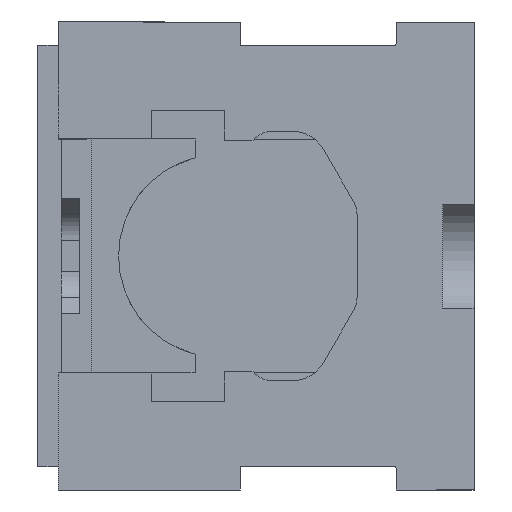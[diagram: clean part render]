
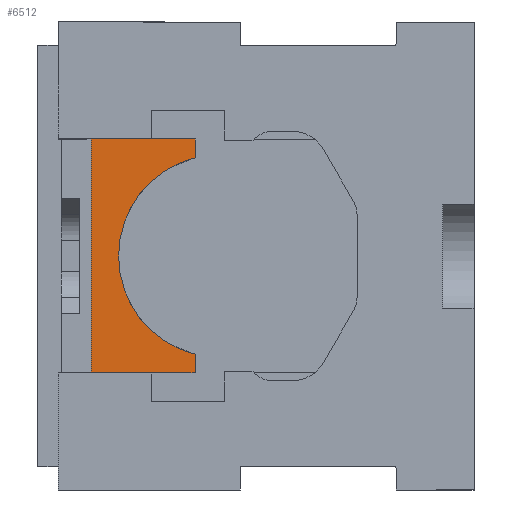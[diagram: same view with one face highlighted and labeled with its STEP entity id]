
A CAD part, left-side view. The second image highlights one B-rep face of the part: STEP entity #6512.
In plain terms, the highlighted planar face has unit normal (-1, 0, 0).
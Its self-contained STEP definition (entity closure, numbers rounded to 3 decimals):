
#22 = CARTESIAN_POINT ( 'NONE',  ( 5., 77.65, 22.5 ) ) ;
#44 = PLANE ( 'NONE',  #6422 ) ;
#127 = EDGE_CURVE ( 'NONE', #1834, #4645, #376, .T. ) ;
#376 = LINE ( 'NONE', #22, #2057 ) ;
#579 = CARTESIAN_POINT ( 'NONE',  ( 5., 77.65, -22.5 ) ) ;
#631 = DIRECTION ( 'NONE',  ( 0., -1., 0. ) ) ;
#659 = EDGE_CURVE ( 'NONE', #6774, #9856, #5707, .T. ) ;
#692 = EDGE_LOOP ( 'NONE', ( #5304, #1239, #12083, #11486, #6583, #2747, #6591, #9285 ) ) ;
#756 = EDGE_CURVE ( 'NONE', #4645, #3781, #2326, .T. ) ;
#837 = VERTEX_POINT ( 'NONE', #979 ) ;
#979 = CARTESIAN_POINT ( 'NONE',  ( 5., 57.65, -22.5 ) ) ;
#1175 = CARTESIAN_POINT ( 'NONE',  ( 5., 57.65, 22.5 ) ) ;
#1239 = ORIENTED_EDGE ( 'NONE', *, *, #7314, .T. ) ;
#1579 = VECTOR ( 'NONE', #2881, 1000. ) ;
#1740 = CARTESIAN_POINT ( 'NONE',  ( 5., 77.65, 22.5 ) ) ;
#1751 = DIRECTION ( 'NONE',  ( 1., 0., 0. ) ) ;
#1834 = VERTEX_POINT ( 'NONE', #3288 ) ;
#1870 = EDGE_CURVE ( 'NONE', #7652, #6774, #3191, .T. ) ;
#2057 = VECTOR ( 'NONE', #4800, 1000. ) ;
#2322 = AXIS2_PLACEMENT_3D ( 'NONE', #4157, #1751, #7882 ) ;
#2326 = LINE ( 'NONE', #2973, #14729 ) ;
#2394 = DIRECTION ( 'NONE',  ( 1., 0., 0. ) ) ;
#2747 = ORIENTED_EDGE ( 'NONE', *, *, #127, .T. ) ;
#2829 = CARTESIAN_POINT ( 'NONE',  ( 5., 57.65, 22.5 ) ) ;
#2881 = DIRECTION ( 'NONE',  ( 0., 0., -1. ) ) ;
#2973 = CARTESIAN_POINT ( 'NONE',  ( 5., 77.65, -22.5 ) ) ;
#3191 = LINE ( 'NONE', #6734, #6722 ) ;
#3229 = DIRECTION ( 'NONE',  ( 0., -1., 0. ) ) ;
#3288 = CARTESIAN_POINT ( 'NONE',  ( 5., 77.65, 22.5 ) ) ;
#3584 = CARTESIAN_POINT ( 'NONE',  ( 5., 77.65, -22.5 ) ) ;
#3781 = VERTEX_POINT ( 'NONE', #8370 ) ;
#3924 = FACE_OUTER_BOUND ( 'NONE', #692, .T. ) ;
#4157 = CARTESIAN_POINT ( 'NONE',  ( 5., 52.85, 0. ) ) ;
#4483 = VECTOR ( 'NONE', #14559, 1000. ) ;
#4645 = VERTEX_POINT ( 'NONE', #579 ) ;
#4686 = DIRECTION ( 'NONE',  ( 0., 0., -1. ) ) ;
#4800 = DIRECTION ( 'NONE',  ( 0., 0., -1. ) ) ;
#5036 = VECTOR ( 'NONE', #4686, 1000. ) ;
#5238 = CARTESIAN_POINT ( 'NONE',  ( 5., 57.65, -18.9 ) ) ;
#5304 = ORIENTED_EDGE ( 'NONE', *, *, #5746, .F. ) ;
#5707 = LINE ( 'NONE', #2829, #1579 ) ;
#5746 = EDGE_CURVE ( 'NONE', #13517, #837, #10830, .T. ) ;
#6422 = AXIS2_PLACEMENT_3D ( 'NONE', #14531, #2394, #13294 ) ;
#6512 = ADVANCED_FACE ( 'NONE', ( #3924 ), #44, .F. ) ;
#6583 = ORIENTED_EDGE ( 'NONE', *, *, #11820, .F. ) ;
#6591 = ORIENTED_EDGE ( 'NONE', *, *, #756, .T. ) ;
#6722 = VECTOR ( 'NONE', #9076, 1000. ) ;
#6734 = CARTESIAN_POINT ( 'NONE',  ( 5., 77.65, 22.5 ) ) ;
#6774 = VERTEX_POINT ( 'NONE', #12709 ) ;
#7314 = EDGE_CURVE ( 'NONE', #13517, #9856, #12256, .T. ) ;
#7652 = VERTEX_POINT ( 'NONE', #12997 ) ;
#7882 = DIRECTION ( 'NONE',  ( 0., 1., 0. ) ) ;
#8370 = CARTESIAN_POINT ( 'NONE',  ( 5., 66., -22.5 ) ) ;
#9076 = DIRECTION ( 'NONE',  ( 0., -1., 0. ) ) ;
#9285 = ORIENTED_EDGE ( 'NONE', *, *, #11570, .T. ) ;
#9856 = VERTEX_POINT ( 'NONE', #9921 ) ;
#9921 = CARTESIAN_POINT ( 'NONE',  ( 5., 57.65, 18.9 ) ) ;
#10830 = LINE ( 'NONE', #1175, #5036 ) ;
#11486 = ORIENTED_EDGE ( 'NONE', *, *, #1870, .F. ) ;
#11570 = EDGE_CURVE ( 'NONE', #3781, #837, #13673, .T. ) ;
#11820 = EDGE_CURVE ( 'NONE', #1834, #7652, #13853, .T. ) ;
#12083 = ORIENTED_EDGE ( 'NONE', *, *, #659, .F. ) ;
#12256 = CIRCLE ( 'NONE', #2322, 19.5 ) ;
#12546 = VECTOR ( 'NONE', #631, 1000. ) ;
#12709 = CARTESIAN_POINT ( 'NONE',  ( 5., 57.65, 22.5 ) ) ;
#12997 = CARTESIAN_POINT ( 'NONE',  ( 5., 66., 22.5 ) ) ;
#13294 = DIRECTION ( 'NONE',  ( 0., 1., 0. ) ) ;
#13517 = VERTEX_POINT ( 'NONE', #5238 ) ;
#13673 = LINE ( 'NONE', #3584, #4483 ) ;
#13853 = LINE ( 'NONE', #1740, #12546 ) ;
#14531 = CARTESIAN_POINT ( 'NONE',  ( 5., 77.65, 22.5 ) ) ;
#14559 = DIRECTION ( 'NONE',  ( 0., -1., 0. ) ) ;
#14729 = VECTOR ( 'NONE', #3229, 1000. ) ;
